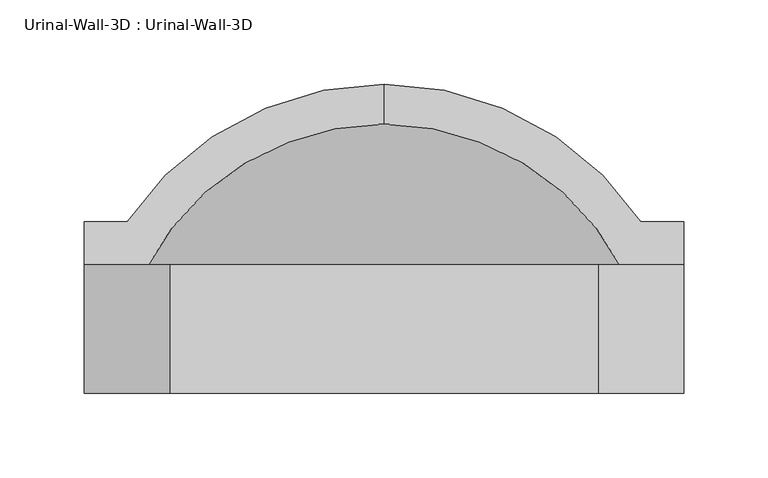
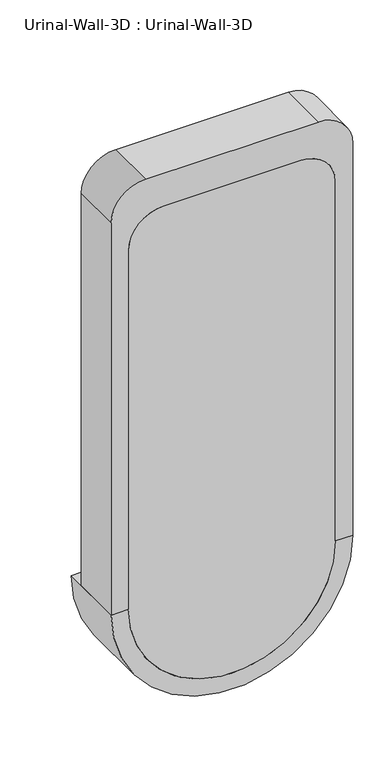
"""IFC4 building model written with IfcOpenShell, lengths in millimetres: flow terminal geometry, Urinal-Wall-3D : Urinal-Wall-3D."""

from ifc_helpers import new_model, si_unit, point, frame, frame_2d, origin, place, context, project, spatial, polyline, circle_curve, ellipse_curve, trimmed, segment, composite_curve, outline, extrude, source, transform, mapped, element, save
from ifc_brep_helpers import plane_surface, cylinder_surface, revolved_surface, advanced_brep


def urinal_wall_3d_urinal_wall_3d_b67806af(model_context):
    return source(origin(), model_context, "Body", "SolidModel", [
        extrude(outline(composite_curve([segment(polyline([(609.6, 43.3254001), (609.6, 68.7254001), (1219.2, 68.7254001)]), True, "CONTINUOUS"), segment(trimmed(circle_curve(frame_2d((1219.2, 17.9254001)), 50.8), [point((1219.2, 68.7254001))], [point((1270.0, 17.9254001))], False, "CARTESIAN"), True, "CONTINUOUS"), segment(polyline([(1270.0, 17.9254001), (1270.0, -236.0745999)]), True, "CONTINUOUS"), segment(trimmed(circle_curve(frame_2d((1219.2, -236.0745999)), 50.8), [point((1270.0, -236.0745999))], [point((1219.2, -286.8745999))], False, "CARTESIAN"), True, "CONTINUOUS"), segment(polyline([(1219.2, -286.8745999), (609.6, -286.8745999), (609.6, -261.4745999), (1168.4, -261.4745999)]), True, "CONTINUOUS"), segment(trimmed(circle_curve(frame_2d((1168.4, -210.6745999)), 50.8), [point((1168.4, -261.4745999))], [point((1219.2, -210.6745999))], True, "CARTESIAN"), True, "CONTINUOUS"), segment(polyline([(1219.2, -210.6745999), (1219.2, -7.4745999)]), True, "CONTINUOUS"), segment(trimmed(circle_curve(frame_2d((1168.4, -7.4745999)), 50.8), [point((1219.2, -7.4745999))], [point((1168.4, 43.3254001))], True, "CARTESIAN"), True, "CONTINUOUS"), segment(polyline([(1168.4, 43.3254001), (609.6, 43.3254001)]), True, "CONTINUOUS")], self_intersect=False)), frame((0.0, 171.45, 0.0), z_axis=(0.0, 1.0, 0.0), x_axis=(0.0, 0.0, 1.0)), (0.0, 0.0, 1.0), 76.2),
        extrude(outline(composite_curve([segment(trimmed(circle_curve(frame_2d((1168.4, -7.4745999)), 50.8), [point((1168.4, 43.3254001))], [point((1219.2, -7.4745999))], False, "CARTESIAN"), True, "CONTINUOUS"), segment(polyline([(1219.2, -7.4745999), (1219.2, -210.6745999)]), True, "CONTINUOUS"), segment(trimmed(circle_curve(frame_2d((1168.4, -210.6745999)), 50.8), [point((1219.2, -210.6745999))], [point((1168.4, -261.4745999))], False, "CARTESIAN"), True, "CONTINUOUS"), segment(polyline([(1168.4, -261.4745999), (609.6, -261.4745999)]), True, "CONTINUOUS"), segment(trimmed(circle_curve(frame_2d((609.6, -109.0745999)), 152.4), [point((609.6, -261.4745999))], [point((609.6, 43.3254001))], False, "CARTESIAN"), True, "CONTINUOUS"), segment(polyline([(609.6, 43.3254001), (1168.4, 43.3254001)]), True, "CONTINUOUS")], self_intersect=False)), frame((0.0, 171.45, 0.0), z_axis=(0.0, 1.0, 0.0), x_axis=(0.0, 0.0, 1.0)), (0.0, 0.0, 1.0), 12.7),
        advanced_brep(
        [(-109.0745999, 354.6120048, 609.6), (-109.0745999, 330.8947043, 609.6), (43.3254001, 218.3206063, 609.6), (43.3254001, 171.45, 609.6), (68.7254001, 171.45, 609.6), (68.7254001, 273.05, 609.6), (43.3254001, 273.05, 609.6), (-261.4745999, 273.05, 609.6), (-286.8745999, 273.05, 609.6), (-286.8745999, 171.45, 609.6), (-261.4745999, 171.45, 609.6), (-261.4745999, 218.3206063, 609.6)],
        [
            (0, 1),
            (1, 2, circle_curve(frame((-109.0745999, 171.45, 609.6), z_axis=(0.0, 0.0, -1.0), x_axis=(1.0, 0.0, 0.0)), 159.4447043)),
            (2, 3),
            (3, 4),
            (4, 5),
            (5, 6),
            (6, 0, circle_curve(frame((-109.0745999, 171.45, 609.6), z_axis=(0.0, 0.0, 1.0), x_axis=(1.0, 0.0, 0.0)), 183.1620048)),
            (0, 7, circle_curve(frame((-109.0745999, 171.45, 609.6), z_axis=(0.0, 0.0, 1.0), x_axis=(-1.0, 0.0, 0.0)), 183.1620048)),
            (7, 8),
            (8, 9),
            (9, 10),
            (10, 11),
            (11, 1, circle_curve(frame((-109.0745999, 171.45, 609.6), z_axis=(0.0, 0.0, -1.0), x_axis=(-1.0, 0.0, 0.0)), 159.4447043)),
            (11, 2, circle_curve(frame((-109.0745999, 218.3206063, 609.6), z_axis=(0.0, -1.0, 0.0), x_axis=(1.0, 0.0, 0.0)), 152.4)),
            (10, 3, circle_curve(frame((-109.0745999, 171.45, 609.6), z_axis=(0.0, -1.0, 0.0), x_axis=(1.0, 0.0, 0.0)), 152.4)),
            (9, 4, circle_curve(frame((-109.0745999, 171.45, 609.6), z_axis=(0.0, -1.0, 0.0), x_axis=(1.0, 0.0, 0.0)), 177.8)),
            (8, 5, circle_curve(frame((-109.0745999, 273.05, 609.6), z_axis=(0.0, -1.0, 0.0), x_axis=(1.0, 0.0, 0.0)), 177.8)),
            (7, 6, circle_curve(frame((-109.0745999, 273.05, 609.6), z_axis=(0.0, -1.0, 0.0), x_axis=(1.0, 0.0, 0.0)), 152.4)),
        ],
        [
            plane_surface(frame((-109.0745999, 460.6604173, 609.6), z_axis=(0.0, 0.0, 1.0), x_axis=(1.0, 0.0, 0.0))),
            plane_surface(frame((-109.0745999, 460.6604173, 609.6), z_axis=(0.0, 0.0, 1.0), x_axis=(-1.0, 0.0, 0.0))),
            revolved_surface(trimmed(ellipse_curve(frame((-109.0745999, 171.45, 609.6), z_axis=(0.0, 0.0, -1.0), x_axis=(1.0, 0.0, 0.0)), 159.4447043, 159.4447043), [point((-109.0745999, 330.8947043, 609.6))], [point((43.3254001, 218.3206063, 609.6))], True, "CARTESIAN"), (-109.0745999, 460.6604173, 609.6), (0.0, 1.0, 0.0)),
            revolved_surface(polyline([(43.32540010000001, 218.3206063, 609.6), (43.32540010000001, 171.45, 609.6)]), (-109.0745999, 460.6604173, 609.6), (0.0, 1.0, 0.0)),
            plane_surface(frame((-109.0745999, 171.45, 609.6), z_axis=(0.0, -1.0, 0.0), x_axis=(1.0, 0.0, 0.0))),
            cylinder_surface(frame((-109.0745999, 460.6604173, 609.6), z_axis=(0.0, 1.0, 0.0), x_axis=(1.0, 0.0, 0.0)), 177.8),
            plane_surface(frame((-109.0745999, 273.05, 609.6), z_axis=(0.0, 1.0, 0.0), x_axis=(1.0, 0.0, 0.0))),
            revolved_surface(trimmed(ellipse_curve(frame((-109.0745999, 171.45, 609.6), z_axis=(0.0, 0.0, 1.0), x_axis=(1.0, 0.0, 0.0)), 183.1620048, 183.1620048), [point((43.3254001, 273.05, 609.6))], [point((-109.0745999, 354.6120048, 609.6))], True, "CARTESIAN"), (-109.0745999, 460.6604173, 609.6), (0.0, 1.0, 0.0)),
        ],
        [
            (0, [[1, 2, 3, 4, 5, 6, 7]]),
            (1, [[8, 9, 10, 11, 12, 13, -1]]),
            (2, [[14, -2, -13]]),
            (3, [[15, -3, -14, -12]]),
            (4, [[16, -4, -15, -11]]),
            (5, [[17, -5, -16, -10]]),
            (6, [[18, -6, -17, -9]]),
            (7, [[-7, -18, -8]]),
        ],
    ),
    ])


if __name__ == "__main__":
    model = new_model("IFC4")
    model_context = context("Model", 3, world=origin())
    ifc_project = project(units=[si_unit("LENGTHUNIT", "METRE", prefix="MILLI")], contexts=[model_context])
    site = spatial("IfcSite", under=ifc_project)
    building = spatial("IfcBuilding", under=site)
    placement = place(None, origin())
    urinal_wall_3d_urinal_wall_3d_shape = urinal_wall_3d_urinal_wall_3d_b67806af(model_context)
    element("IfcFlowTerminal", 1, ObjectType="Urinal-Wall-3D : Urinal-Wall-3D", at=placement, inside=building, context=model_context, shape_type="MappedRepresentation", body=[
        mapped(urinal_wall_3d_urinal_wall_3d_shape, transform((0.0, 0.0, 0.0), x_axis=(1.0, 0.0, 0.0), y_axis=(0.0, 1.0, 0.0), z_axis=(0.0, 0.0, 1.0))),
    ])
    save(model, "model.ifc")
